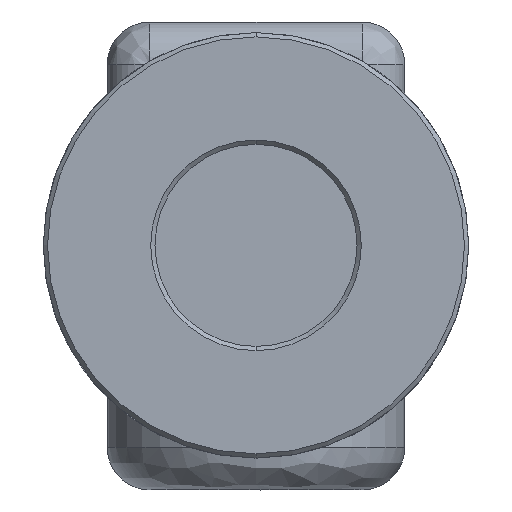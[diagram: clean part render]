
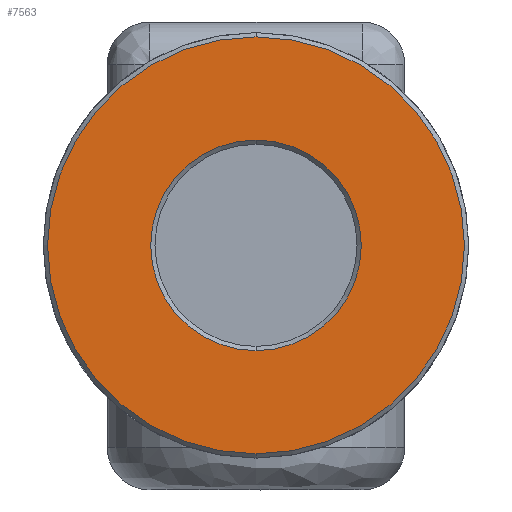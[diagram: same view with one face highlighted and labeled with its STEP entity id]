
A CAD part, front view. The second image highlights one B-rep face of the part: STEP entity #7563.
In plain terms, the highlighted planar face has unit normal (0, -1, 0).
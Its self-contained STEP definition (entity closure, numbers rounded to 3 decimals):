
#319 = EDGE_LOOP ( 'NONE', ( #1377, #1200 ) ) ;
#435 = CIRCLE ( 'NONE', #11157, 9.8 ) ;
#509 = VERTEX_POINT ( 'NONE', #7532 ) ;
#542 = DIRECTION ( 'NONE',  ( 0., 0., 1. ) ) ;
#671 = EDGE_CURVE ( 'NONE', #12671, #8165, #435, .T. ) ;
#746 = CARTESIAN_POINT ( 'NONE',  ( -9.353, -24.626, 39.2 ) ) ;
#803 = CARTESIAN_POINT ( 'NONE',  ( -9.353, -24.626, 49. ) ) ;
#1200 = ORIENTED_EDGE ( 'NONE', *, *, #671, .F. ) ;
#1349 = DIRECTION ( 'NONE',  ( 0., 1., 0. ) ) ;
#1377 = ORIENTED_EDGE ( 'NONE', *, *, #7024, .F. ) ;
#1388 = CARTESIAN_POINT ( 'NONE',  ( -9.353, -24.626, 49. ) ) ;
#1866 = DIRECTION ( 'NONE',  ( 0., 0., -1. ) ) ;
#2042 = CARTESIAN_POINT ( 'NONE',  ( -9.353, -24.626, 58.8 ) ) ;
#2046 = AXIS2_PLACEMENT_3D ( 'NONE', #9477, #3298, #10514 ) ;
#2263 = CARTESIAN_POINT ( 'NONE',  ( -9.353, -24.626, 49. ) ) ;
#3041 = EDGE_CURVE ( 'NONE', #4594, #509, #5307, .T. ) ;
#3298 = DIRECTION ( 'NONE',  ( 0., -1., 0. ) ) ;
#3319 = DIRECTION ( 'NONE',  ( 0., 0., 1. ) ) ;
#3447 = FACE_BOUND ( 'NONE', #10713, .T. ) ;
#3972 = ORIENTED_EDGE ( 'NONE', *, *, #12762, .F. ) ;
#4312 = DIRECTION ( 'NONE',  ( 0., 1., 0. ) ) ;
#4594 = VERTEX_POINT ( 'NONE', #12758 ) ;
#5307 = CIRCLE ( 'NONE', #2046, 4.95 ) ;
#5350 = CIRCLE ( 'NONE', #7699, 4.95 ) ;
#6193 = AXIS2_PLACEMENT_3D ( 'NONE', #2263, #9496, #3319 ) ;
#7024 = EDGE_CURVE ( 'NONE', #8165, #12671, #11721, .T. ) ;
#7532 = CARTESIAN_POINT ( 'NONE',  ( -9.353, -24.626, 53.95 ) ) ;
#7563 = ADVANCED_FACE ( 'NONE', ( #3447, #11367 ), #12529, .F. ) ;
#7699 = AXIS2_PLACEMENT_3D ( 'NONE', #803, #8054, #1866 ) ;
#8054 = DIRECTION ( 'NONE',  ( 0., -1., 0. ) ) ;
#8165 = VERTEX_POINT ( 'NONE', #2042 ) ;
#9477 = CARTESIAN_POINT ( 'NONE',  ( -9.353, -24.626, 49. ) ) ;
#9496 = DIRECTION ( 'NONE',  ( 0., 1., 0. ) ) ;
#10471 = CARTESIAN_POINT ( 'NONE',  ( -19.27, -24.626, 39.082 ) ) ;
#10514 = DIRECTION ( 'NONE',  ( 0., 0., -1. ) ) ;
#10713 = EDGE_LOOP ( 'NONE', ( #11899, #3972 ) ) ;
#11157 = AXIS2_PLACEMENT_3D ( 'NONE', #1388, #1349, #542 ) ;
#11367 = FACE_OUTER_BOUND ( 'NONE', #319, .T. ) ;
#11535 = DIRECTION ( 'NONE',  ( 0., 0., 1. ) ) ;
#11721 = CIRCLE ( 'NONE', #6193, 9.8 ) ;
#11899 = ORIENTED_EDGE ( 'NONE', *, *, #3041, .F. ) ;
#12529 = PLANE ( 'NONE',  #12598 ) ;
#12598 = AXIS2_PLACEMENT_3D ( 'NONE', #10471, #4312, #11535 ) ;
#12671 = VERTEX_POINT ( 'NONE', #746 ) ;
#12758 = CARTESIAN_POINT ( 'NONE',  ( -9.353, -24.626, 44.05 ) ) ;
#12762 = EDGE_CURVE ( 'NONE', #509, #4594, #5350, .T. ) ;
